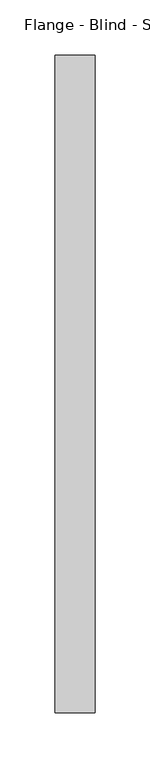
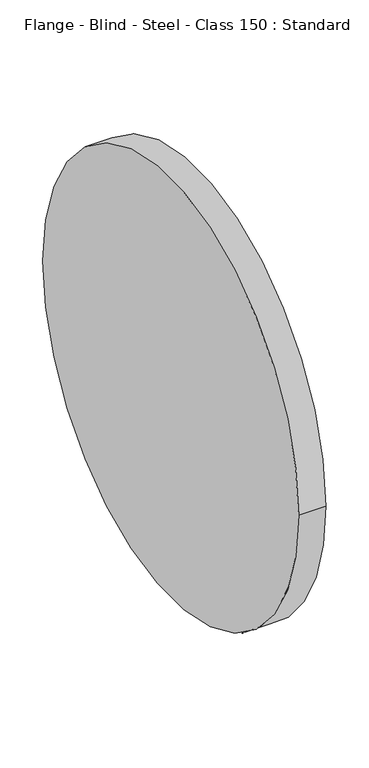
"""IFC4 building model written with IfcOpenShell, lengths in millimetres: pipe fitting geometry, Flange - Blind - Steel - Class 150 : Standard."""

import ifcopenshell
import ifcopenshell.guid

model = None  # the IFC model being written
_history = None  # IfcOwnerHistory: only IFC2X3 demands one
_inside = {}  # id of a spatial element -> (the spatial element, [elements in it])
_under = {}  # id of a project, library or spatial element -> (it, [spatial elements below it])
_declared = {}  # id of a project -> (the project, [libraries it declares])
_typed = {}  # id of a type object -> (the type object, [elements of that type])
_made_of = {}  # id of a material, layer set ... -> (it, [elements and type objects made of it])


def new_model(schema):
    """Start an empty IFC model of exactly this schema.

    Asked for "IFC4X3", IfcOpenShell would pick the latest addendum, in which some entities
    have other attributes; the version numbers below select the first issue.
    IFC2X3 requires an IfcOwnerHistory on every rooted entity: one is made here for all.
    """
    global model, _history
    if schema == "IFC4X3":
        model = ifcopenshell.file(schema_version=(4, 3, 0, 0))
    else:
        model = ifcopenshell.file(schema=schema)
    _inside.clear()
    _under.clear()
    _declared.clear()
    _typed.clear()
    _made_of.clear()
    _history = None
    if model.schema == "IFC2X3":
        org = make("IfcOrganization", Name="unknown")
        user = make(
            "IfcPersonAndOrganization",
            ThePerson=make("IfcPerson", FamilyName="unknown"),
            TheOrganization=org,
        )
        app = make(
            "IfcApplication",
            ApplicationDeveloper=org,
            Version="unknown",
            ApplicationFullName="unknown",
            ApplicationIdentifier="unknown",
        )
        _history = make(
            "IfcOwnerHistory",
            OwningUser=user,
            OwningApplication=app,
            ChangeAction="ADDED",
            CreationDate=0,
        )
    return model


def make(cls, **values):
    """One entity of the class cls with the attributes given. An attribute that is None is left unset."""
    return model.create_entity(
        cls, **{name: value for name, value in values.items() if value is not None}
    )


def rooted(cls, **values):
    """An entity with a GlobalId (a new one), such as an element, a storey or a relation."""
    return make(cls, GlobalId=ifcopenshell.guid.new(), OwnerHistory=_history, **values)


def si_unit(unit_type, name, prefix=None):
    """IfcSIUnit, for example si_unit("LENGTHUNIT", "METRE", prefix="MILLI")."""
    return make("IfcSIUnit", UnitType=unit_type, Prefix=prefix, Name=name)


def assignment(units):
    """IfcUnitAssignment: the units of a project."""
    return None if units is None else make("IfcUnitAssignment", Units=units)


def point(xyz):
    """IfcCartesianPoint."""
    return None if xyz is None else make("IfcCartesianPoint", Coordinates=xyz)


def direction(xyz):
    """IfcDirection."""
    return None if xyz is None else make("IfcDirection", DirectionRatios=xyz)


def frame(location, z_axis=None, x_axis=None):
    """IfcAxis2Placement3D, a coordinate frame: its origin and axes. An axis left out is left unset."""
    return make(
        "IfcAxis2Placement3D",
        Location=point(location),
        Axis=direction(z_axis),
        RefDirection=direction(x_axis),
    )


def frame_2d(location, x_axis=None):
    """IfcAxis2Placement2D, a coordinate frame in the plane: its origin and x axis."""
    return make(
        "IfcAxis2Placement2D", Location=point(location), RefDirection=direction(x_axis)
    )


def origin():
    """The frame at (0, 0, 0) with its axes left unset."""
    return frame((0.0, 0.0, 0.0))


def origin_2d():
    """The frame at (0, 0) in the plane with its x axis left unset."""
    return frame_2d((0.0, 0.0))


def place(relative_to, where):
    """IfcLocalPlacement: puts the frame where relative to a parent placement (None: the world)."""
    return make(
        "IfcLocalPlacement", PlacementRelTo=relative_to, RelativePlacement=where
    )


def context(
    kind, dimensions, precision=None, world=None, true_north=None, identifier=None
):
    """IfcGeometricRepresentationContext, for example the 3D "Model" context."""
    return make(
        "IfcGeometricRepresentationContext",
        ContextIdentifier=identifier,
        ContextType=kind,
        CoordinateSpaceDimension=dimensions,
        Precision=precision,
        WorldCoordinateSystem=world,
        TrueNorth=true_north,
    )


def project(units=None, contexts=None):
    """IfcProject with its units and contexts."""
    return rooted(
        "IfcProject",
        Name="project",
        RepresentationContexts=contexts,
        UnitsInContext=assignment(units),
    )


def spatial(cls, under=None, at=None, **own):
    """A site, building, storey or space (cls), placed at a placement, below another one or the project."""
    s = rooted(cls, ObjectPlacement=at, **own)
    if under is not None:
        _under.setdefault(under.id(), (under, []))[1].append(s)
    return s


def circle_curve(where, radius):
    """IfcCircle in the frame where."""
    return make("IfcCircle", Position=where, Radius=radius)


def trimmed(basis, trim1, trim2, sense, master):
    """IfcTrimmedCurve: the piece of a basis curve between two trims."""
    return make(
        "IfcTrimmedCurve",
        BasisCurve=basis,
        Trim1=trim1,
        Trim2=trim2,
        SenseAgreement=sense,
        MasterRepresentation=master,
    )


def segment(curve, same_sense, transition):
    """IfcCompositeCurveSegment."""
    return make(
        "IfcCompositeCurveSegment",
        Transition=transition,
        SameSense=same_sense,
        ParentCurve=curve,
    )


def composite_curve(segments, self_intersect=None):
    """IfcCompositeCurve: segments joined end to end."""
    return make("IfcCompositeCurve", Segments=segments, SelfIntersect=self_intersect)


def outline(outer, holes=None, kind="AREA"):
    """IfcArbitraryClosedProfileDef: a profile drawn as a closed curve; with holes, ...WithVoids."""
    if holes is None:
        return make("IfcArbitraryClosedProfileDef", ProfileType=kind, OuterCurve=outer)
    return make(
        "IfcArbitraryProfileDefWithVoids",
        ProfileType=kind,
        OuterCurve=outer,
        InnerCurves=holes,
    )


def extrude(swept, where, along, depth):
    """IfcExtrudedAreaSolid: the profile swept, set in the frame where, extruded along a direction by depth."""
    return make(
        "IfcExtrudedAreaSolid",
        SweptArea=swept,
        Position=where,
        ExtrudedDirection=direction(along),
        Depth=depth,
    )


def shape(context_of_items, identifier, shape_type, items):
    """IfcShapeRepresentation: the items that make up one representation, for example the "Body"."""
    return make(
        "IfcShapeRepresentation",
        ContextOfItems=context_of_items,
        RepresentationIdentifier=identifier,
        RepresentationType=shape_type,
        Items=items,
    )


def source(mapping_origin, context_of_items, identifier, shape_type, items):
    """IfcRepresentationMap: a shape defined once, which mapped items show again and again."""
    return make(
        "IfcRepresentationMap",
        MappingOrigin=mapping_origin,
        MappedRepresentation=shape(context_of_items, identifier, shape_type, items),
    )


def transform(
    local_origin,
    x_axis=None,
    y_axis=None,
    z_axis=None,
    scale=None,
    scale2=None,
    scale3=None,
    uniform=True,
):
    """IfcCartesianTransformationOperator3D, or its non-uniform kind. x_axis, y_axis, z_axis: its Axis1, 2, 3."""
    if uniform:
        return make(
            "IfcCartesianTransformationOperator3D",
            Axis1=direction(x_axis),
            Axis2=direction(y_axis),
            LocalOrigin=point(local_origin),
            Scale=scale,
            Axis3=direction(z_axis),
        )
    return make(
        "IfcCartesianTransformationOperator3DnonUniform",
        Axis1=direction(x_axis),
        Axis2=direction(y_axis),
        LocalOrigin=point(local_origin),
        Scale=scale,
        Axis3=direction(z_axis),
        Scale2=scale2,
        Scale3=scale3,
    )


def mapped(mapping_source, mapping_target):
    """IfcMappedItem: shows the shape of a source again, moved by a transform."""
    return make(
        "IfcMappedItem", MappingSource=mapping_source, MappingTarget=mapping_target
    )


def made_of(thing, what):
    """Note that an element or type object is made of a material, layer set ...; save() writes the relation."""
    if what is not None:
        _made_of.setdefault(what.id(), (what, []))[1].append(thing)
    return thing


def element(
    cls,
    number,
    at=None,
    inside=None,
    cuts=None,
    type_object=None,
    material=None,
    context=None,
    identifier="Body",
    shape_type=None,
    held_by="IfcProductDefinitionShape",
    body=None,
    shapes=None,
    **own,
):
    """One element of the class cls, such as IfcWall. Its Tag is "e" and its number.

    at: its placement. inside: the storey or other place that contains it. cuts: it is an
    opening in that element (IfcRelVoidsElement). A single representation is given by context,
    identifier, shape_type and body (its items); several are given by shapes. held_by: the class
    of the entity that holds the representations. save() writes the other relations.
    """
    e = rooted(cls, Tag="e%d" % number, ObjectPlacement=at, **own)
    if body is not None:
        shapes = [shape(context, identifier, shape_type, body)]
    if shapes is not None:
        e.Representation = make(held_by, Representations=shapes)
    if inside is not None:
        _inside.setdefault(inside.id(), (inside, []))[1].append(e)
    if cuts is not None:
        rooted(
            "IfcRelVoidsElement", RelatingBuildingElement=cuts, RelatedOpeningElement=e
        )
    if type_object is not None:
        _typed.setdefault(type_object.id(), (type_object, []))[1].append(e)
    return made_of(e, material)


def aggregate(whole, parts):
    """IfcRelAggregates: a whole, such as a stair, and the parts it consists of."""
    return rooted("IfcRelAggregates", RelatingObject=whole, RelatedObjects=parts)


def save(model, path):
    """Write the relations noted so far, then the file.

    IfcRelAggregates (storeys below a building ...), IfcRelContainedInSpatialStructure (elements
    in a storey), IfcRelDefinesByType, IfcRelAssociatesMaterial and IfcRelDeclares: one each for
    every whole, place, type object, material and project.
    """
    for whole, parts in _under.values():
        aggregate(whole, parts)
    for where, things in _inside.values():
        rooted(
            "IfcRelContainedInSpatialStructure",
            RelatedElements=things,
            RelatingStructure=where,
        )
    for kind, things in _typed.values():
        rooted("IfcRelDefinesByType", RelatedObjects=things, RelatingType=kind)
    for what, things in _made_of.values():
        rooted("IfcRelAssociatesMaterial", RelatedObjects=things, RelatingMaterial=what)
    for by, libraries in _declared.values():
        rooted("IfcRelDeclares", RelatingContext=by, RelatedDefinitions=libraries)
    model.write(path)


def flange_blind_steel_class_150_standard_40d5ef49(model_context):
    return source(origin(), model_context, "Body", "SweptSolid", [
        extrude(outline(composite_curve([segment(trimmed(circle_curve(origin_2d(), 298.45), [point((-298.45, 0.0))], [point((298.45, 0.0))], False, "CARTESIAN"), True, "CONTINUOUS"), segment(trimmed(circle_curve(origin_2d(), 298.45), [point((298.45, 0.0))], [point((-298.45, 0.0))], False, "CARTESIAN"), True, "CONTINUOUS")], self_intersect=False)), frame((1.5875, 0.0, 0.0), z_axis=(1.0, 0.0, 0.0), x_axis=(0.0, 1.0, 0.0)), (0.0, 0.0, 1.0), 36.5125),
    ])


if __name__ == "__main__":
    model = new_model("IFC4")
    model_context = context("Model", 3, world=origin())
    ifc_project = project(units=[si_unit("LENGTHUNIT", "METRE", prefix="MILLI")], contexts=[model_context])
    site = spatial("IfcSite", under=ifc_project)
    building = spatial("IfcBuilding", under=site)
    placement = place(None, origin())
    flange_blind_steel_class_150_standard_shape = flange_blind_steel_class_150_standard_40d5ef49(model_context)
    element("IfcPipeFitting", 1, ObjectType="Flange - Blind - Steel - Class 150 : Standard", at=placement, inside=building, context=model_context, shape_type="MappedRepresentation", body=[
        mapped(flange_blind_steel_class_150_standard_shape, transform((0.0, 0.0, 0.0), x_axis=(1.0, 0.0, 0.0), y_axis=(0.0, 1.0, 0.0), z_axis=(0.0, 0.0, 1.0))),
    ])
    save(model, "model.ifc")
